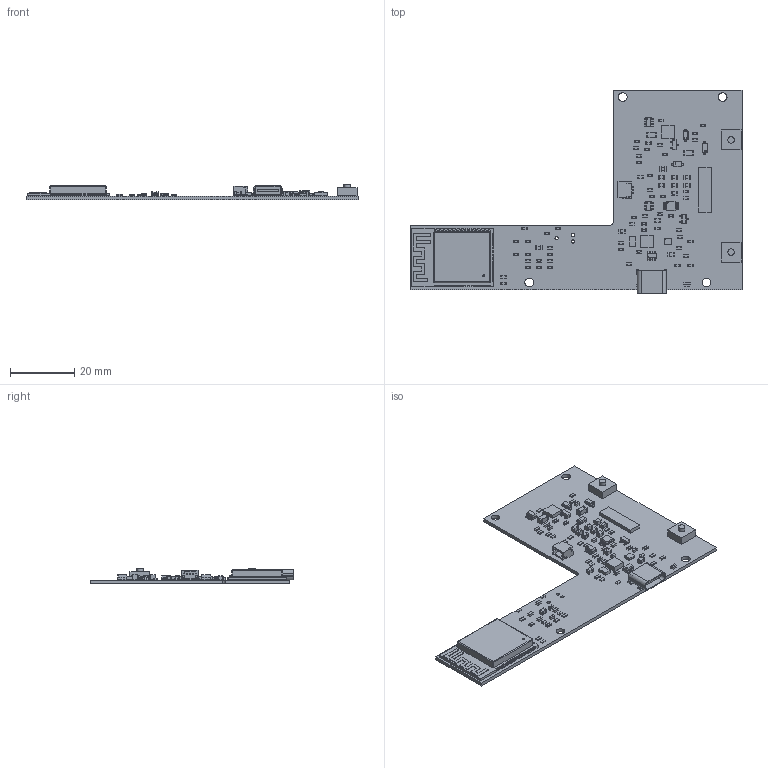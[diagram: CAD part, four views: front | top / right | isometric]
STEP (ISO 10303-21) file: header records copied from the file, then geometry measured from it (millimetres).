
FILE_DESCRIPTION(('KiCad electronic assembly'),'2;1');
FILE_NAME('cicala_rev_b_board.step','2026-09-15T22:39:08',('Pcbnew'),( 'Kicad'),'Open CASCADE STEP processor 7.9','KiCad to STEP converter' ,'Unknown');
FILE_SCHEMA(('AUTOMOTIVE_DESIGN { 1 0 10303 214 1 1 1 1 }'));
Length unit declared in the file: millimetre
Products named in the file (46): cicala_rev_b_board 1; R_0603_1608Metric; C_0805_2012Metric; C_0603_1608Metric; SOT-23-6; TPS63802_DLA0010A_envelope; body_0; D_SOD-123; JST_SH_SM03B-SRSS-TB_1x03-1MP_P1.00mm_Horizontal; SOT-23; Coilcraft_XFL4015_envelope; TDK_VLS4012CX_envelope; Alps_SKRABCE010_envelope; Open CASCADE STEP translator 7.9 1; Texas_DLH0010A_WSON-10-1EP_2.2x2mm_P0.4mm_EP0.9x1.5mm; Kingbright_APBA2006_envelope; body_1; C_1206_3216Metric; VSSOP-8_3x3mm_P0.65mm; Molex_503480-2400_envelope; Open CASCADE STEP translator 7.9 2; HRO_TYPE_C_31_M_12_envelope; body_2; ESP32-S3-WROOM-1; cicala_rev_b_PCB
Assembly tree (116 placements, depth 4):
  cicala_rev_b_board 1
    R_0603_1608Metric  x38
      R_0603_1608Metric
    C_0805_2012Metric  x12
      C_0805_2012Metric
    C_0603_1608Metric  x17
      C_0603_1608Metric
    SOT-23-6  x3
      SOT-23-6
    TPS63802_DLA0010A_envelope
      TPS63802_DLA0010A_envelope
        body_0
    D_SOD-123  x3
      D_SOD-123
    JST_SH_SM03B-SRSS-TB_1x03-1MP_P1.00mm_Horizontal
      JST_SH_SM03B-SRSS-TB_1x03-1MP_P1.00mm_Horizontal
    SOT-23  x2
      SOT-23
    Coilcraft_XFL4015_envelope
      Coilcraft_XFL4015_envelope
        body_0
    TDK_VLS4012CX_envelope
      TDK_VLS4012CX_envelope
        body_0
    Alps_SKRABCE010_envelope  x2
      Open CASCADE STEP translator 7.9 1
    Texas_DLH0010A_WSON-10-1EP_2.2x2mm_P0.4mm_EP0.9x1.5mm
      Texas_DLH0010A_WSON-10-1EP_2.2x2mm_P0.4mm_EP0.9x1.5mm
    Kingbright_APBA2006_envelope
      Kingbright_APBA2006_envelope
        body_0
        body_1
    C_1206_3216Metric  x2
      C_1206_3216Metric
    VSSOP-8_3x3mm_P0.65mm
      VSSOP-8_3x3mm_P0.65mm
    Molex_503480-2400_envelope
      Open CASCADE STEP translator 7.9 2
    HRO_TYPE_C_31_M_12_envelope
      HRO_TYPE_C_31_M_12_envelope
        body_0
        body_1
        body_2
    ESP32-S3-WROOM-1
      ESP32-S3-WROOM-1
    cicala_rev_b_PCB
Bounding box: 103 x 63.27 x 4.87 mm (x, y, z)
Volume: 5795.3 mm3; surface area: 11785.6 mm2
Topology: 144 solids, 144 shells, 4213 faces, 10622 edges, 6782 vertices
Faces by surface type: plane 3119, cylinder 946, bspline 144, sphere 4
Full cylindrical faces by diameter (mm): 0.25 x1, 0.5 x1, 0.65 x2, 0.991 x3, 2 x2, 2.7 x4
Entity records: 74590 total; most frequent: CARTESIAN_POINT 10538, ORIENTED_EDGE 9959, DIRECTION 9543, EDGE_CURVE 4980, LINE 4407, VECTOR 4407, VERTEX_POINT 3115, AXIS2_PLACEMENT_3D 2568
